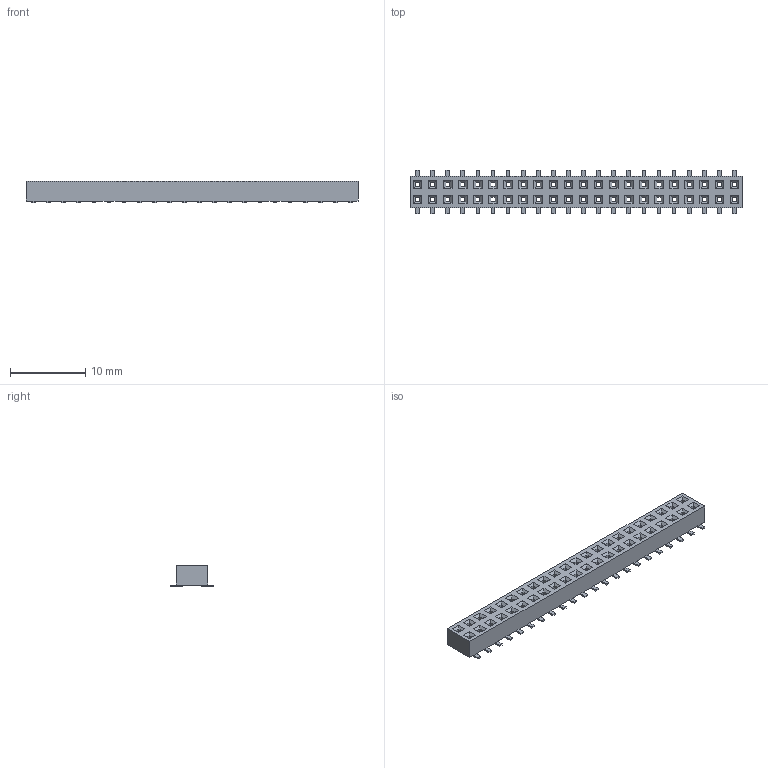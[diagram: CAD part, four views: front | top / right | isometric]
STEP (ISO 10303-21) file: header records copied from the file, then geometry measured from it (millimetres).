
FILE_DESCRIPTION(/* description */ (''),/* implementation_level */ '2;1');
FILE_NAME(/* name */ '956244-2000-AR-XX',/* time_stamp */ '2007-03-23T08:59:47+01:00',/* author */ (''),/* organization */ (''),/* preprocessor_version */ 'ST-DEVELOPER v9',/* originating_system */ 'UGS - NX 4.0',/* authorisation */ '');
FILE_SCHEMA (('AUTOMOTIVE_DESIGN { 1 0 10303 214 1 1 1 1 }'));
Length unit declared in the file: millimetre
Products named in the file (1): 956244-2000-AR-XX
Bounding box: 44 x 5.8 x 2.8 mm (x, y, z)
Volume: 442.1 mm3; surface area: 904.8 mm2
Topology: 1 solids, 1 shells, 804 faces, 2090 edges, 1246 vertices
Faces by surface type: plane 800, cylinder 2, bspline 2
Full cylindrical faces by diameter (mm): 0.001 x2
Entity records: 23710 total; most frequent: CARTESIAN_POINT 4191, ORIENTED_EDGE 4172, DIRECTION 3698, EDGE_CURVE 2086, LINE 2080, VECTOR 2080, VERTEX_POINT 1246, EDGE_LOOP 854
